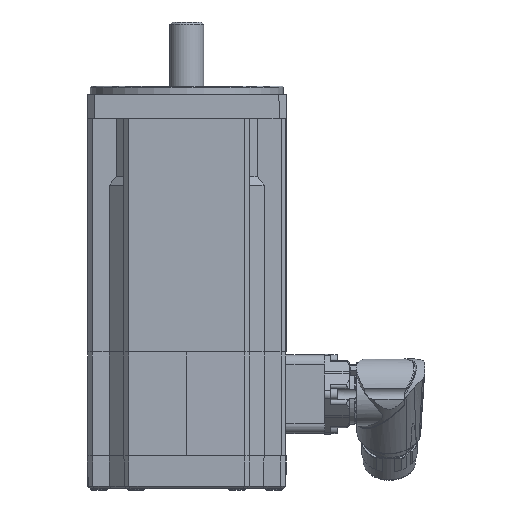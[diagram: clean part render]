
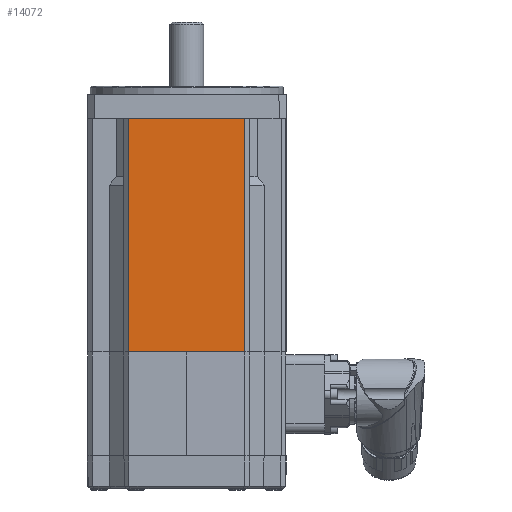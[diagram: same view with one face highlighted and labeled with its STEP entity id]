
A CAD part, left-side view. The second image highlights one B-rep face of the part: STEP entity #14072.
In plain terms, the highlighted planar face has unit normal (-1, 0, 0).
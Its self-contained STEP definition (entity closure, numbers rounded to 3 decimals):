
#1029=LINE('',#20701,#2121);
#1049=LINE('',#20741,#2141);
#1050=LINE('',#20744,#2142);
#1051=LINE('',#20745,#2143);
#2121=VECTOR('',#16785,48.);
#2141=VECTOR('',#16817,96.5);
#2142=VECTOR('',#16820,48.);
#2143=VECTOR('',#16821,96.5);
#3068=PLANE('',#14994);
#3782=FACE_OUTER_BOUND('',#4669,.T.);
#4669=EDGE_LOOP('',(#9931,#9932,#9933,#9934));
#6187=VERTEX_POINT('',#20698);
#6188=VERTEX_POINT('',#20700);
#6202=VERTEX_POINT('',#20739);
#6203=VERTEX_POINT('',#20743);
#7611=EDGE_CURVE('',#6188,#6187,#1029,.T.);
#7631=EDGE_CURVE('',#6202,#6187,#1049,.T.);
#7632=EDGE_CURVE('',#6203,#6202,#1050,.T.);
#7633=EDGE_CURVE('',#6188,#6203,#1051,.T.);
#9931=ORIENTED_EDGE('',*,*,#7631,.F.);
#9932=ORIENTED_EDGE('',*,*,#7632,.F.);
#9933=ORIENTED_EDGE('',*,*,#7633,.F.);
#9934=ORIENTED_EDGE('',*,*,#7611,.T.);
#14072=ADVANCED_FACE('',(#3782),#3068,.T.);
#14994=AXIS2_PLACEMENT_3D('',#20742,#16818,#16819);
#16785=DIRECTION('',(0.,1.,0.));
#16817=DIRECTION('',(0.,0.,1.));
#16818=DIRECTION('center_axis',(-1.,0.,0.));
#16819=DIRECTION('ref_axis',(0.,0.,1.));
#16820=DIRECTION('',(0.,1.,0.));
#16821=DIRECTION('',(0.,0.,-1.));
#20698=CARTESIAN_POINT('',(-41.,24.,-10.));
#20700=CARTESIAN_POINT('',(-41.,-24.,-10.));
#20701=CARTESIAN_POINT('',(-41.,-26.,-10.));
#20739=CARTESIAN_POINT('',(-41.,24.,-106.5));
#20741=CARTESIAN_POINT('',(-41.,24.,-108.));
#20742=CARTESIAN_POINT('Origin',(-41.,-26.,-108.));
#20743=CARTESIAN_POINT('',(-41.,-24.,-106.5));
#20744=CARTESIAN_POINT('',(-41.,-26.,-106.5));
#20745=CARTESIAN_POINT('',(-41.,-24.,-108.));
